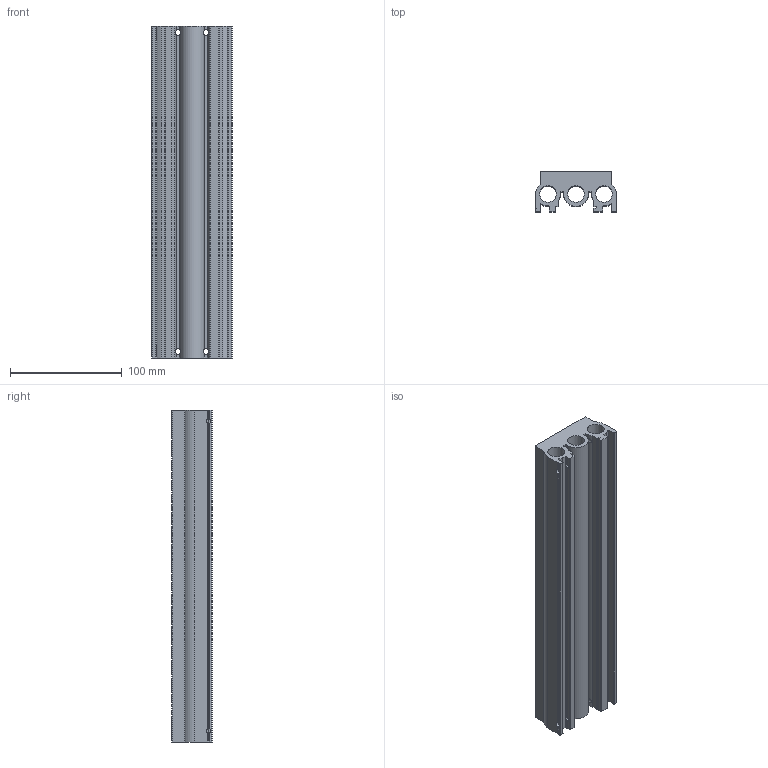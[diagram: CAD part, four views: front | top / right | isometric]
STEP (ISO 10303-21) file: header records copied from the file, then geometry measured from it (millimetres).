
FILE_DESCRIPTION(/* description */ ('COLLETTORE G1/4" 9 POSTI (TECNO-ECO)'),/* implementation_level */ '2;1');
FILE_NAME(/* name */ 'I:\Area Tecnica\Disegni\VARIE-3D\Componenti\T400\T424\T424_##\T424_09.stp',/* time_stamp */ '2015-09-23T13:41:56+02:00',/* author */ ('maniean1'),/* organization */ (''),/* preprocessor_version */ 'ST-DEVELOPER v15.2',/* originating_system */ 'Autodesk Inventor 2014',/* authorisation */ '');
FILE_SCHEMA (('AUTOMOTIVE_DESIGN { 1 0 10303 214 3 1 1 }'));
Length unit declared in the file: millimetre
Products named in the file (1): T424_09
Bounding box: 72 x 36 x 297 mm (x, y, z)
Volume: 422780.9 mm3; surface area: 141816.8 mm2
Topology: 1 solids, 1 shells, 279 faces, 656 edges, 427 vertices
Faces by surface type: cylinder 135, plane 117, cone 27
Full cylindrical faces by diameter (mm): 4 x31, 5.25 x4, 8 x27, 9 x4, 14.9 x3, 16.8 x27
Entity records: 8750 total; most frequent: CARTESIAN_POINT 2529, DIRECTION 1312, ORIENTED_EDGE 1050, AXIS2_PLACEMENT_3D 560, EDGE_LOOP 526, EDGE_CURVE 525, VERTEX_POINT 419, ADVANCED_FACE 279
